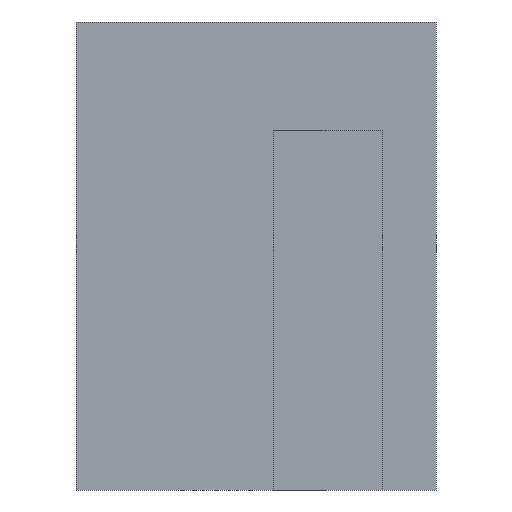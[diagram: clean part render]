
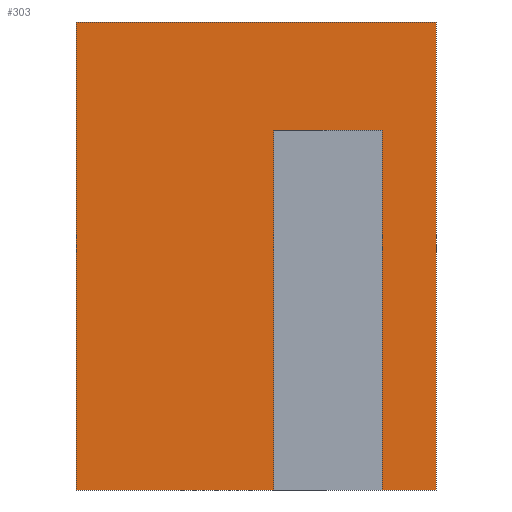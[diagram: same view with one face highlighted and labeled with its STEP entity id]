
A CAD part, left-side view. The second image highlights one B-rep face of the part: STEP entity #303.
In plain terms, the highlighted planar face has unit normal (-1, 0, 0).
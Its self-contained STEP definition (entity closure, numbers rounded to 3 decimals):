
#22 = VERTEX_POINT('',#23);
#23 = CARTESIAN_POINT('',(117.,-166.,13.));
#32 = PLANE('',#33);
#33 = AXIS2_PLACEMENT_3D('',#34,#35,#36);
#34 = CARTESIAN_POINT('',(108.9,-180.,13.));
#35 = DIRECTION('',(0.,0.,1.));
#36 = DIRECTION('',(1.,0.,-0.));
#44 = PLANE('',#45);
#45 = AXIS2_PLACEMENT_3D('',#46,#47,#48);
#46 = CARTESIAN_POINT('',(108.9,-166.,0.));
#47 = DIRECTION('',(-0.,1.,0.));
#48 = DIRECTION('',(0.,0.,1.));
#56 = EDGE_CURVE('',#57,#22,#59,.T.);
#57 = VERTEX_POINT('',#58);
#58 = CARTESIAN_POINT('',(117.,-176.,13.));
#59 = SURFACE_CURVE('',#60,(#64,#70),.PCURVE_S1.);
#60 = LINE('',#61,#62);
#61 = CARTESIAN_POINT('',(117.,-190.,13.));
#62 = VECTOR('',#63,1.);
#63 = DIRECTION('',(-0.,1.,0.));
#64 = PCURVE('',#32,#65);
#65 = DEFINITIONAL_REPRESENTATION('',(#66),#69);
#66 = B_SPLINE_CURVE_WITH_KNOTS('',1,(#67,#68),.UNSPECIFIED.,.F.,.F.,(2,
    2),(11.9,24.),.PIECEWISE_BEZIER_KNOTS.);
#67 = CARTESIAN_POINT('',(8.1,1.9));
#68 = CARTESIAN_POINT('',(8.1,14.));
#69 = ( GEOMETRIC_REPRESENTATION_CONTEXT(2) 
PARAMETRIC_REPRESENTATION_CONTEXT() REPRESENTATION_CONTEXT('2D SPACE',''
  ) );
#70 = PCURVE('',#71,#76);
#71 = PLANE('',#72);
#72 = AXIS2_PLACEMENT_3D('',#73,#74,#75);
#73 = CARTESIAN_POINT('',(117.,-200.,-1.));
#74 = DIRECTION('',(1.,0.,-0.));
#75 = DIRECTION('',(0.,0.,1.));
#76 = DEFINITIONAL_REPRESENTATION('',(#77),#80);
#77 = B_SPLINE_CURVE_WITH_KNOTS('',1,(#78,#79),.UNSPECIFIED.,.F.,.F.,(2,
    2),(11.9,24.),.PIECEWISE_BEZIER_KNOTS.);
#78 = CARTESIAN_POINT('',(14.,-21.9));
#79 = CARTESIAN_POINT('',(14.,-34.));
#80 = ( GEOMETRIC_REPRESENTATION_CONTEXT(2) 
PARAMETRIC_REPRESENTATION_CONTEXT() REPRESENTATION_CONTEXT('2D SPACE',''
  ) );
#97 = PLANE('',#98);
#98 = AXIS2_PLACEMENT_3D('',#99,#100,#101);
#99 = CARTESIAN_POINT('',(-192.,-176.,0.));
#100 = DIRECTION('',(0.,1.,0.));
#101 = DIRECTION('',(1.,0.,0.));
#138 = VERTEX_POINT('',#139);
#139 = CARTESIAN_POINT('',(117.,-166.,0.));
#155 = PLANE('',#156);
#156 = AXIS2_PLACEMENT_3D('',#157,#158,#159);
#157 = CARTESIAN_POINT('',(108.9,-180.,0.));
#158 = DIRECTION('',(0.,0.,1.));
#159 = DIRECTION('',(1.,0.,-0.));
#167 = EDGE_CURVE('',#22,#138,#168,.T.);
#168 = SURFACE_CURVE('',#169,(#173,#179),.PCURVE_S1.);
#169 = LINE('',#170,#171);
#170 = CARTESIAN_POINT('',(117.,-166.,-0.5));
#171 = VECTOR('',#172,1.);
#172 = DIRECTION('',(-0.,0.,-1.));
#173 = PCURVE('',#44,#174);
#174 = DEFINITIONAL_REPRESENTATION('',(#175),#178);
#175 = B_SPLINE_CURVE_WITH_KNOTS('',1,(#176,#177),.UNSPECIFIED.,.F.,.F.,
  (2,2),(-13.5,-0.5),.PIECEWISE_BEZIER_KNOTS.);
#176 = CARTESIAN_POINT('',(13.,8.1));
#177 = CARTESIAN_POINT('',(0.,8.1));
#178 = ( GEOMETRIC_REPRESENTATION_CONTEXT(2) 
PARAMETRIC_REPRESENTATION_CONTEXT() REPRESENTATION_CONTEXT('2D SPACE',''
  ) );
#179 = PCURVE('',#71,#180);
#180 = DEFINITIONAL_REPRESENTATION('',(#181),#184);
#181 = B_SPLINE_CURVE_WITH_KNOTS('',1,(#182,#183),.UNSPECIFIED.,.F.,.F.,
  (2,2),(-13.5,-0.5),.PIECEWISE_BEZIER_KNOTS.);
#182 = CARTESIAN_POINT('',(14.,-34.));
#183 = CARTESIAN_POINT('',(1.,-34.));
#184 = ( GEOMETRIC_REPRESENTATION_CONTEXT(2) 
PARAMETRIC_REPRESENTATION_CONTEXT() REPRESENTATION_CONTEXT('2D SPACE',''
  ) );
#259 = VERTEX_POINT('',#260);
#260 = CARTESIAN_POINT('',(117.,-176.,0.));
#281 = EDGE_CURVE('',#259,#57,#282,.T.);
#282 = SURFACE_CURVE('',#283,(#287,#294),.PCURVE_S1.);
#283 = LINE('',#284,#285);
#284 = CARTESIAN_POINT('',(117.,-176.,-0.5));
#285 = VECTOR('',#286,1.);
#286 = DIRECTION('',(0.,-0.,1.));
#287 = PCURVE('',#97,#288);
#288 = DEFINITIONAL_REPRESENTATION('',(#289),#293);
#289 = LINE('',#290,#291);
#290 = CARTESIAN_POINT('',(309.,0.5));
#291 = VECTOR('',#292,1.);
#292 = DIRECTION('',(0.,-1.));
#293 = ( GEOMETRIC_REPRESENTATION_CONTEXT(2) 
PARAMETRIC_REPRESENTATION_CONTEXT() REPRESENTATION_CONTEXT('2D SPACE',''
  ) );
#294 = PCURVE('',#71,#295);
#295 = DEFINITIONAL_REPRESENTATION('',(#296),#300);
#296 = LINE('',#297,#298);
#297 = CARTESIAN_POINT('',(0.5,-24.));
#298 = VECTOR('',#299,1.);
#299 = DIRECTION('',(1.,0.));
#300 = ( GEOMETRIC_REPRESENTATION_CONTEXT(2) 
PARAMETRIC_REPRESENTATION_CONTEXT() REPRESENTATION_CONTEXT('2D SPACE',''
  ) );
#303 = ADVANCED_FACE('',(#304),#71,.F.);
#304 = FACE_BOUND('',#305,.F.);
#305 = EDGE_LOOP('',(#306,#307,#308,#331,#359,#387,#415,#436));
#306 = ORIENTED_EDGE('',*,*,#56,.F.);
#307 = ORIENTED_EDGE('',*,*,#281,.F.);
#308 = ORIENTED_EDGE('',*,*,#309,.F.);
#309 = EDGE_CURVE('',#310,#259,#312,.T.);
#310 = VERTEX_POINT('',#311);
#311 = CARTESIAN_POINT('',(117.,-174.5,0.));
#312 = SURFACE_CURVE('',#313,(#317,#324),.PCURVE_S1.);
#313 = LINE('',#314,#315);
#314 = CARTESIAN_POINT('',(117.,-101.336,0.));
#315 = VECTOR('',#316,1.);
#316 = DIRECTION('',(0.,-1.,0.));
#317 = PCURVE('',#71,#318);
#318 = DEFINITIONAL_REPRESENTATION('',(#319),#323);
#319 = LINE('',#320,#321);
#320 = CARTESIAN_POINT('',(1.,-98.664));
#321 = VECTOR('',#322,1.);
#322 = DIRECTION('',(0.,1.));
#323 = ( GEOMETRIC_REPRESENTATION_CONTEXT(2) 
PARAMETRIC_REPRESENTATION_CONTEXT() REPRESENTATION_CONTEXT('2D SPACE',''
  ) );
#324 = PCURVE('',#155,#325);
#325 = DEFINITIONAL_REPRESENTATION('',(#326),#330);
#326 = LINE('',#327,#328);
#327 = CARTESIAN_POINT('',(8.1,78.664));
#328 = VECTOR('',#329,1.);
#329 = DIRECTION('',(0.,-1.));
#330 = ( GEOMETRIC_REPRESENTATION_CONTEXT(2) 
PARAMETRIC_REPRESENTATION_CONTEXT() REPRESENTATION_CONTEXT('2D SPACE',''
  ) );
#331 = ORIENTED_EDGE('',*,*,#332,.F.);
#332 = EDGE_CURVE('',#333,#310,#335,.T.);
#333 = VERTEX_POINT('',#334);
#334 = CARTESIAN_POINT('',(117.,-174.5,10.));
#335 = SURFACE_CURVE('',#336,(#340,#347),.PCURVE_S1.);
#336 = LINE('',#337,#338);
#337 = CARTESIAN_POINT('',(117.,-174.5,10.));
#338 = VECTOR('',#339,1.);
#339 = DIRECTION('',(0.,0.,-1.));
#340 = PCURVE('',#71,#341);
#341 = DEFINITIONAL_REPRESENTATION('',(#342),#346);
#342 = LINE('',#343,#344);
#343 = CARTESIAN_POINT('',(11.,-25.5));
#344 = VECTOR('',#345,1.);
#345 = DIRECTION('',(-1.,0.));
#346 = ( GEOMETRIC_REPRESENTATION_CONTEXT(2) 
PARAMETRIC_REPRESENTATION_CONTEXT() REPRESENTATION_CONTEXT('2D SPACE',''
  ) );
#347 = PCURVE('',#348,#353);
#348 = PLANE('',#349);
#349 = AXIS2_PLACEMENT_3D('',#350,#351,#352);
#350 = CARTESIAN_POINT('',(109.,-174.5,1.));
#351 = DIRECTION('',(-0.,1.,0.));
#352 = DIRECTION('',(0.,0.,1.));
#353 = DEFINITIONAL_REPRESENTATION('',(#354),#358);
#354 = LINE('',#355,#356);
#355 = CARTESIAN_POINT('',(9.,8.));
#356 = VECTOR('',#357,1.);
#357 = DIRECTION('',(-1.,0.));
#358 = ( GEOMETRIC_REPRESENTATION_CONTEXT(2) 
PARAMETRIC_REPRESENTATION_CONTEXT() REPRESENTATION_CONTEXT('2D SPACE',''
  ) );
#359 = ORIENTED_EDGE('',*,*,#360,.F.);
#360 = EDGE_CURVE('',#361,#333,#363,.T.);
#361 = VERTEX_POINT('',#362);
#362 = CARTESIAN_POINT('',(117.,-171.5,10.));
#363 = SURFACE_CURVE('',#364,(#368,#375),.PCURVE_S1.);
#364 = LINE('',#365,#366);
#365 = CARTESIAN_POINT('',(117.,-187.25,10.));
#366 = VECTOR('',#367,1.);
#367 = DIRECTION('',(0.,-1.,0.));
#368 = PCURVE('',#71,#369);
#369 = DEFINITIONAL_REPRESENTATION('',(#370),#374);
#370 = LINE('',#371,#372);
#371 = CARTESIAN_POINT('',(11.,-12.75));
#372 = VECTOR('',#373,1.);
#373 = DIRECTION('',(0.,1.));
#374 = ( GEOMETRIC_REPRESENTATION_CONTEXT(2) 
PARAMETRIC_REPRESENTATION_CONTEXT() REPRESENTATION_CONTEXT('2D SPACE',''
  ) );
#375 = PCURVE('',#376,#381);
#376 = PLANE('',#377);
#377 = AXIS2_PLACEMENT_3D('',#378,#379,#380);
#378 = CARTESIAN_POINT('',(109.,-174.5,10.));
#379 = DIRECTION('',(0.,0.,1.));
#380 = DIRECTION('',(1.,0.,-0.));
#381 = DEFINITIONAL_REPRESENTATION('',(#382),#386);
#382 = LINE('',#383,#384);
#383 = CARTESIAN_POINT('',(8.,-12.75));
#384 = VECTOR('',#385,1.);
#385 = DIRECTION('',(0.,-1.));
#386 = ( GEOMETRIC_REPRESENTATION_CONTEXT(2) 
PARAMETRIC_REPRESENTATION_CONTEXT() REPRESENTATION_CONTEXT('2D SPACE',''
  ) );
#387 = ORIENTED_EDGE('',*,*,#388,.F.);
#388 = EDGE_CURVE('',#389,#361,#391,.T.);
#389 = VERTEX_POINT('',#390);
#390 = CARTESIAN_POINT('',(117.,-171.5,0.));
#391 = SURFACE_CURVE('',#392,(#396,#403),.PCURVE_S1.);
#392 = LINE('',#393,#394);
#393 = CARTESIAN_POINT('',(117.,-171.5,0.));
#394 = VECTOR('',#395,1.);
#395 = DIRECTION('',(0.,0.,1.));
#396 = PCURVE('',#71,#397);
#397 = DEFINITIONAL_REPRESENTATION('',(#398),#402);
#398 = LINE('',#399,#400);
#399 = CARTESIAN_POINT('',(1.,-28.5));
#400 = VECTOR('',#401,1.);
#401 = DIRECTION('',(1.,0.));
#402 = ( GEOMETRIC_REPRESENTATION_CONTEXT(2) 
PARAMETRIC_REPRESENTATION_CONTEXT() REPRESENTATION_CONTEXT('2D SPACE',''
  ) );
#403 = PCURVE('',#404,#409);
#404 = PLANE('',#405);
#405 = AXIS2_PLACEMENT_3D('',#406,#407,#408);
#406 = CARTESIAN_POINT('',(109.,-171.5,0.));
#407 = DIRECTION('',(-0.,1.,0.));
#408 = DIRECTION('',(0.,0.,1.));
#409 = DEFINITIONAL_REPRESENTATION('',(#410),#414);
#410 = LINE('',#411,#412);
#411 = CARTESIAN_POINT('',(0.,8.));
#412 = VECTOR('',#413,1.);
#413 = DIRECTION('',(1.,0.));
#414 = ( GEOMETRIC_REPRESENTATION_CONTEXT(2) 
PARAMETRIC_REPRESENTATION_CONTEXT() REPRESENTATION_CONTEXT('2D SPACE',''
  ) );
#415 = ORIENTED_EDGE('',*,*,#416,.F.);
#416 = EDGE_CURVE('',#138,#389,#417,.T.);
#417 = SURFACE_CURVE('',#418,(#422,#429),.PCURVE_S1.);
#418 = LINE('',#419,#420);
#419 = CARTESIAN_POINT('',(117.,-101.336,0.));
#420 = VECTOR('',#421,1.);
#421 = DIRECTION('',(0.,-1.,0.));
#422 = PCURVE('',#71,#423);
#423 = DEFINITIONAL_REPRESENTATION('',(#424),#428);
#424 = LINE('',#425,#426);
#425 = CARTESIAN_POINT('',(1.,-98.664));
#426 = VECTOR('',#427,1.);
#427 = DIRECTION('',(0.,1.));
#428 = ( GEOMETRIC_REPRESENTATION_CONTEXT(2) 
PARAMETRIC_REPRESENTATION_CONTEXT() REPRESENTATION_CONTEXT('2D SPACE',''
  ) );
#429 = PCURVE('',#155,#430);
#430 = DEFINITIONAL_REPRESENTATION('',(#431),#435);
#431 = LINE('',#432,#433);
#432 = CARTESIAN_POINT('',(8.1,78.664));
#433 = VECTOR('',#434,1.);
#434 = DIRECTION('',(0.,-1.));
#435 = ( GEOMETRIC_REPRESENTATION_CONTEXT(2) 
PARAMETRIC_REPRESENTATION_CONTEXT() REPRESENTATION_CONTEXT('2D SPACE',''
  ) );
#436 = ORIENTED_EDGE('',*,*,#167,.F.);
